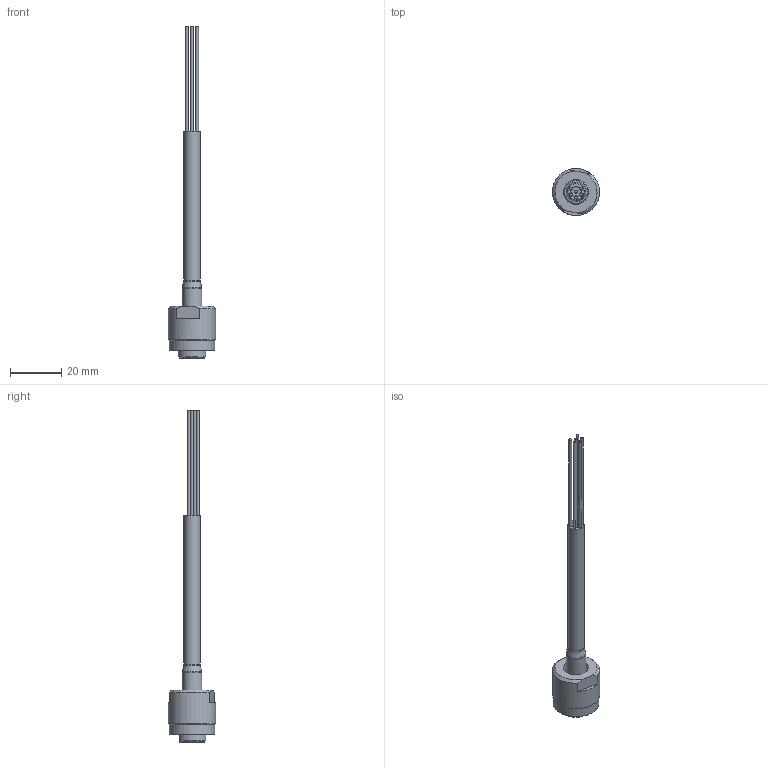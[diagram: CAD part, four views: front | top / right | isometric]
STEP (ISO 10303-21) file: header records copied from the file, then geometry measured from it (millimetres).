
FILE_DESCRIPTION (( 'STEP AP203' ), '1' );
FILE_NAME ('COB-126X.STEP', '2021-09-28T15:23:09', ( '' ), ( '' ), 'SwSTEP 2.0', 'SolidWorks 2020', '' );
FILE_SCHEMA (( 'CONFIG_CONTROL_DESIGN' ));
Length unit declared in the file: millimetre
Products named in the file (1): COB-126X
Bounding box: 18.49 x 18.49 x 130 mm (x, y, z)
Volume: 5501.9 mm3; surface area: 7199.2 mm2
Topology: 3 solids, 3 shells, 145 faces, 329 edges, 216 vertices
Faces by surface type: cylinder 51, plane 44, cone 25, torus 22, bspline 3
Full cylindrical faces by diameter (mm): 1.13 x6, 1.295 x6, 1.778 x6, 1.8 x6, 6.35 x1, 7.71 x1, 8.3 x1, 9.5 x1, 9.562 x1, 9.75 x1, 12 x2, 16 x1, 17.75 x1, 18.5 x1
Entity records: 5045 total; most frequent: CARTESIAN_POINT 2162, DIRECTION 595, ORIENTED_EDGE 490, AXIS2_PLACEMENT_3D 281, EDGE_CURVE 245, EDGE_LOOP 223, VERTEX_POINT 190, FACE_OUTER_BOUND 181
